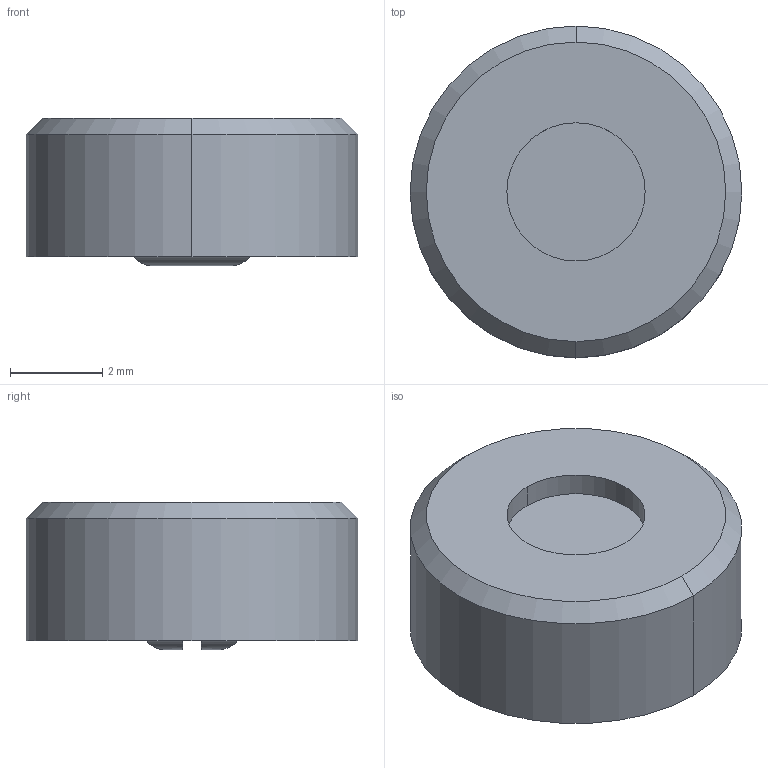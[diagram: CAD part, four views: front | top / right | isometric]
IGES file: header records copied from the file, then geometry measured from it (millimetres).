
Global section: file name: No Iges File Name specified; native system: Autodesk Inventor 2010; preprocessor: AutoDesk Inventor Iges Exporter R2010; author: pitzer; date: 20100318.102039; units: millimetre
Bounding box: 7.2 x 7.2 x 3.2 mm (x, y, z)
Volume: 111.2 mm3; surface area: 165.5 mm2
Topology: 1 solids, 1 shells, 30 faces, 70 edges, 46 vertices
Faces by surface type: plane 12, cylinder 8, revolution 6, torus 2, cone 2
